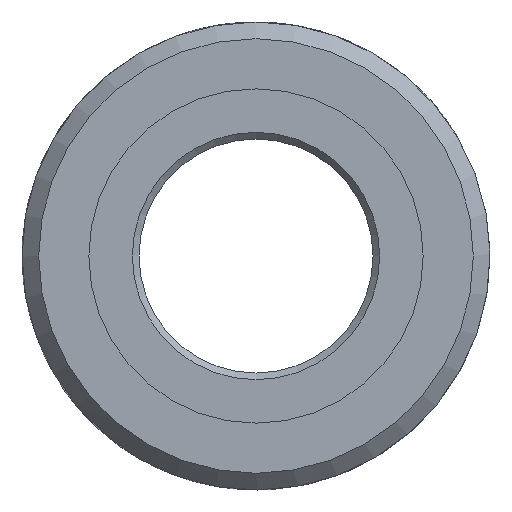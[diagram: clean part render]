
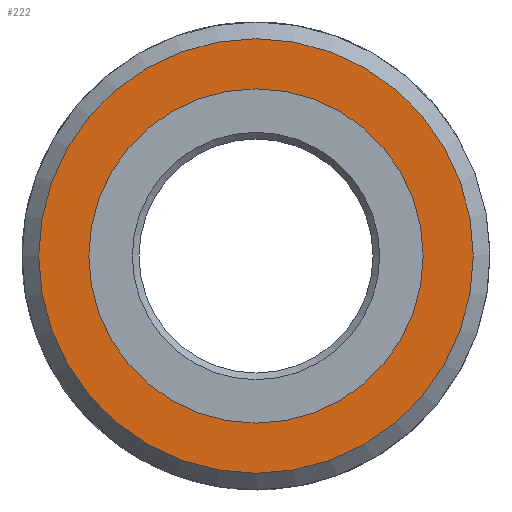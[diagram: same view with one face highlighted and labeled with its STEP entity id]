
A CAD part, front view. The second image highlights one B-rep face of the part: STEP entity #222.
In plain terms, the highlighted planar face has unit normal (0, -1, 0).
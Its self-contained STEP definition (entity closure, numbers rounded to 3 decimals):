
#18 = AXIS2_PLACEMENT_3D ( 'NONE', #355, #516, #364 ) ;
#24 = EDGE_LOOP ( 'NONE', ( #69 ) ) ;
#69 = ORIENTED_EDGE ( 'NONE', *, *, #107, .F. ) ;
#107 = EDGE_CURVE ( 'NONE', #605, #605, #678, .T. ) ;
#123 = CARTESIAN_POINT ( 'NONE',  ( 0., 0., 5. ) ) ;
#127 = DIRECTION ( 'NONE',  ( 0., 0., 1. ) ) ;
#128 = CIRCLE ( 'NONE', #599, 6.5 ) ;
#146 = PLANE ( 'NONE',  #18 ) ;
#222 = ADVANCED_FACE ( 'NONE', ( #308, #567 ), #146, .F. ) ;
#283 = CARTESIAN_POINT ( 'NONE',  ( 0., 0., 6.5 ) ) ;
#308 = FACE_OUTER_BOUND ( 'NONE', #601, .T. ) ;
#355 = CARTESIAN_POINT ( 'NONE',  ( 0., 0., 0. ) ) ;
#364 = DIRECTION ( 'NONE',  ( 0., 0., 1. ) ) ;
#375 = AXIS2_PLACEMENT_3D ( 'NONE', #499, #456, #127 ) ;
#440 = DIRECTION ( 'NONE',  ( 0., -1., 0. ) ) ;
#442 = CARTESIAN_POINT ( 'NONE',  ( 0., 0., 0. ) ) ;
#456 = DIRECTION ( 'NONE',  ( 0., -1., 0. ) ) ;
#499 = CARTESIAN_POINT ( 'NONE',  ( 0., 0., 0. ) ) ;
#516 = DIRECTION ( 'NONE',  ( 0., 1., 0. ) ) ;
#527 = EDGE_CURVE ( 'NONE', #609, #609, #128, .T. ) ;
#567 = FACE_BOUND ( 'NONE', #24, .T. ) ;
#599 = AXIS2_PLACEMENT_3D ( 'NONE', #442, #440, #602 ) ;
#601 = EDGE_LOOP ( 'NONE', ( #617 ) ) ;
#602 = DIRECTION ( 'NONE',  ( 0., 0., 1. ) ) ;
#605 = VERTEX_POINT ( 'NONE', #123 ) ;
#609 = VERTEX_POINT ( 'NONE', #283 ) ;
#617 = ORIENTED_EDGE ( 'NONE', *, *, #527, .T. ) ;
#678 = CIRCLE ( 'NONE', #375, 5. ) ;
